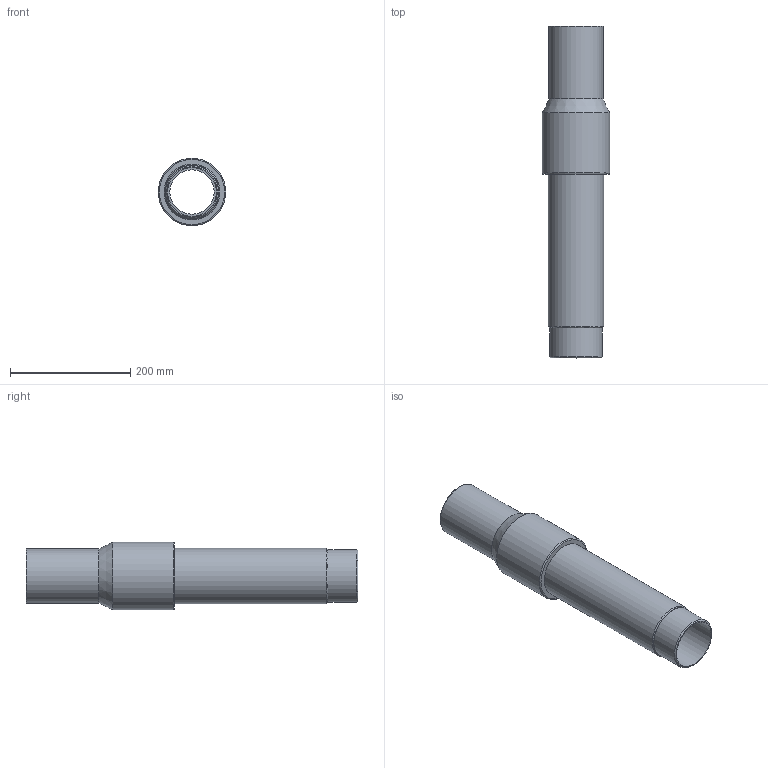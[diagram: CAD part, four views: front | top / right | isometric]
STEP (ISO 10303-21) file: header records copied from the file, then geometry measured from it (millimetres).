
FILE_DESCRIPTION(/* description */ ('Unknown'),/* implementation_level */ '2;1');
FILE_NAME(/* name */ 'RTSZRP090C',/* time_stamp */ '2022-04-27T10:10:06+02:00',/* author */ ('Unknown'),/* organization */ ('Unknown'),/* preprocessor_version */ 'ST-DEVELOPER v18.1',/* originating_system */ 'Solid Edge',/* authorisation */ 'Unknown');
FILE_SCHEMA (('AUTOMOTIVE_DESIGN {1 0 10303 214 3 1 1}'));
Length unit declared in the file: millimetre
Products named in the file (4): RTSZRP090C; copertura tubo; Partea ACCIAIO; Parte PE__oa_0
Assembly tree (3 placements, depth 2):
  RTSZRP090C
    copertura tubo
    Partea ACCIAIO
    Parte PE__oa_0
Bounding box: 112 x 551 x 112 mm (x, y, z)
Volume: 1276802.5 mm3; surface area: 563191.3 mm2
Topology: 3 solids, 3 shells, 21 faces, 38 edges, 24 vertices
Faces by surface type: cylinder 9, plane 7, cone 3, torus 2
Full cylindrical faces by diameter (mm): 73.6 x1, 80.9 x1, 87.9 x1, 88.9 x2, 90 x1, 92.5 x2, 112 x1
Entity records: 531 total; most frequent: DIRECTION 92, CARTESIAN_POINT 67, AXIS2_PLACEMENT_3D 46, ORIENTED_EDGE 42, EDGE_LOOP 42, FACE_BOUND 42, EDGE_CURVE 21, VERTEX_POINT 21
